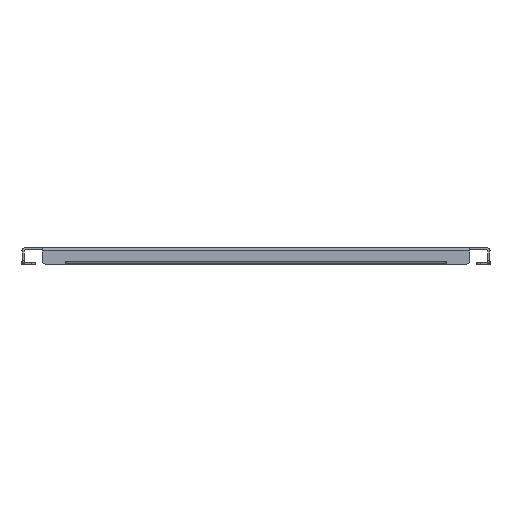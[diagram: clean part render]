
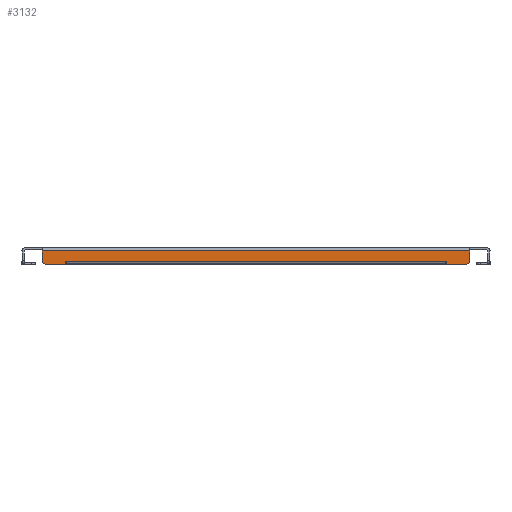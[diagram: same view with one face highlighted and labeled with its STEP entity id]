
A CAD part, front view. The second image highlights one B-rep face of the part: STEP entity #3132.
In plain terms, the highlighted planar face has unit normal (0, -1, 0).
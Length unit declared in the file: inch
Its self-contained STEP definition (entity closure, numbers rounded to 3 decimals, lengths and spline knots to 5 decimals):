
#82=PLANE('',#3407);
#200=FACE_OUTER_BOUND('',#390,.T.);
#390=EDGE_LOOP('',(#2467,#2468,#2469,#2470,#2471,#2472,#2473,#2474,#2475,
#2476,#2477,#2478,#2479,#2480));
#606=LINE('',#4836,#938);
#626=LINE('',#4904,#958);
#644=LINE('',#4965,#976);
#647=LINE('',#4970,#979);
#648=LINE('',#4974,#980);
#649=LINE('',#4976,#981);
#650=LINE('',#4978,#982);
#651=LINE('',#4980,#983);
#652=LINE('',#4982,#984);
#653=LINE('',#4984,#985);
#654=LINE('',#4986,#986);
#655=LINE('',#4987,#987);
#938=VECTOR('',#3897,0.3937);
#958=VECTOR('',#3951,0.3937);
#976=VECTOR('',#4001,0.3937);
#979=VECTOR('',#4006,0.3937);
#980=VECTOR('',#4009,0.3937);
#981=VECTOR('',#4010,0.3937);
#982=VECTOR('',#4011,0.3937);
#983=VECTOR('',#4012,0.3937);
#984=VECTOR('',#4013,0.3937);
#985=VECTOR('',#4014,0.3937);
#986=VECTOR('',#4015,0.3937);
#987=VECTOR('',#4016,0.3937);
#1233=CIRCLE('',#3405,0.125);
#1234=CIRCLE('',#3408,0.125);
#1409=VERTEX_POINT('',#4833);
#1410=VERTEX_POINT('',#4835);
#1440=VERTEX_POINT('',#4901);
#1441=VERTEX_POINT('',#4903);
#1467=VERTEX_POINT('',#4960);
#1468=VERTEX_POINT('',#4964);
#1470=VERTEX_POINT('',#4971);
#1471=VERTEX_POINT('',#4973);
#1472=VERTEX_POINT('',#4975);
#1473=VERTEX_POINT('',#4977);
#1474=VERTEX_POINT('',#4979);
#1475=VERTEX_POINT('',#4981);
#1476=VERTEX_POINT('',#4983);
#1477=VERTEX_POINT('',#4985);
#1772=EDGE_CURVE('',#1410,#1409,#606,.T.);
#1806=EDGE_CURVE('',#1441,#1440,#626,.T.);
#1835=EDGE_CURVE('',#1441,#1467,#1233,.T.);
#1837=EDGE_CURVE('',#1468,#1467,#644,.T.);
#1840=EDGE_CURVE('',#1410,#1440,#647,.T.);
#1841=EDGE_CURVE('',#1470,#1409,#1234,.T.);
#1842=EDGE_CURVE('',#1470,#1471,#648,.T.);
#1843=EDGE_CURVE('',#1471,#1472,#649,.T.);
#1844=EDGE_CURVE('',#1472,#1473,#650,.T.);
#1845=EDGE_CURVE('',#1473,#1474,#651,.T.);
#1846=EDGE_CURVE('',#1474,#1475,#652,.T.);
#1847=EDGE_CURVE('',#1475,#1476,#653,.T.);
#1848=EDGE_CURVE('',#1476,#1477,#654,.T.);
#1849=EDGE_CURVE('',#1477,#1468,#655,.T.);
#2467=ORIENTED_EDGE('',*,*,#1835,.F.);
#2468=ORIENTED_EDGE('',*,*,#1806,.T.);
#2469=ORIENTED_EDGE('',*,*,#1840,.F.);
#2470=ORIENTED_EDGE('',*,*,#1772,.T.);
#2471=ORIENTED_EDGE('',*,*,#1841,.F.);
#2472=ORIENTED_EDGE('',*,*,#1842,.T.);
#2473=ORIENTED_EDGE('',*,*,#1843,.T.);
#2474=ORIENTED_EDGE('',*,*,#1844,.T.);
#2475=ORIENTED_EDGE('',*,*,#1845,.T.);
#2476=ORIENTED_EDGE('',*,*,#1846,.T.);
#2477=ORIENTED_EDGE('',*,*,#1847,.T.);
#2478=ORIENTED_EDGE('',*,*,#1848,.T.);
#2479=ORIENTED_EDGE('',*,*,#1849,.T.);
#2480=ORIENTED_EDGE('',*,*,#1837,.T.);
#3132=ADVANCED_FACE('',(#200),#82,.F.);
#3405=AXIS2_PLACEMENT_3D('',#4961,#3996,#3997);
#3407=AXIS2_PLACEMENT_3D('',#4969,#4004,#4005);
#3408=AXIS2_PLACEMENT_3D('',#4972,#4007,#4008);
#3897=DIRECTION('',(0.,0.,-1.));
#3951=DIRECTION('',(0.,0.,1.));
#3996=DIRECTION('center_axis',(0.,1.,0.));
#3997=DIRECTION('ref_axis',(0.707,0.,-0.707));
#4001=DIRECTION('',(1.,0.,0.));
#4004=DIRECTION('center_axis',(0.,1.,0.));
#4005=DIRECTION('ref_axis',(0.,0.,1.));
#4006=DIRECTION('',(1.,0.,0.));
#4007=DIRECTION('center_axis',(0.,1.,0.));
#4008=DIRECTION('ref_axis',(-0.707,0.,-0.707));
#4009=DIRECTION('',(1.,0.,0.));
#4010=DIRECTION('',(0.,0.,1.));
#4011=DIRECTION('',(1.,0.,0.));
#4012=DIRECTION('',(0.,0.,-1.));
#4013=DIRECTION('',(1.,0.,0.));
#4014=DIRECTION('',(0.,0.,1.));
#4015=DIRECTION('',(1.,0.,0.));
#4016=DIRECTION('',(0.,0.,-1.));
#4833=CARTESIAN_POINT('',(-6.6875,-10.,-0.319));
#4835=CARTESIAN_POINT('',(-6.6875,-10.,-0.031));
#4836=CARTESIAN_POINT('',(-6.6875,-10.,0.068));
#4901=CARTESIAN_POINT('',(6.6875,-10.,-0.031));
#4903=CARTESIAN_POINT('',(6.6875,-10.,-0.319));
#4904=CARTESIAN_POINT('',(6.6875,-10.,-0.444));
#4960=CARTESIAN_POINT('',(6.5625,-10.,-0.444));
#4961=CARTESIAN_POINT('Origin',(6.5625,-10.,-0.319));
#4964=CARTESIAN_POINT('',(5.9377,-10.,-0.444));
#4965=CARTESIAN_POINT('',(-6.6875,-10.,-0.444));
#4969=CARTESIAN_POINT('Origin',(0.,-10.,-0.188));
#4970=CARTESIAN_POINT('',(6.6875,-10.,-0.031));
#4971=CARTESIAN_POINT('',(-6.5625,-10.,-0.444));
#4972=CARTESIAN_POINT('Origin',(-6.5625,-10.,-0.319));
#4973=CARTESIAN_POINT('',(-5.9377,-10.,-0.444));
#4974=CARTESIAN_POINT('',(-6.6875,-10.,-0.444));
#4975=CARTESIAN_POINT('',(-5.9377,-10.,-0.3448));
#4976=CARTESIAN_POINT('',(-5.9377,-10.,-0.316));
#4977=CARTESIAN_POINT('',(-5.9375,-10.,-0.3448));
#4978=CARTESIAN_POINT('',(-2.96885,-10.,-0.3448));
#4979=CARTESIAN_POINT('',(-5.9375,-10.,-0.345));
#4980=CARTESIAN_POINT('',(-5.9375,-10.,-0.2664));
#4981=CARTESIAN_POINT('',(5.9375,-10.,-0.345));
#4982=CARTESIAN_POINT('',(2.96875,-10.,-0.345));
#4983=CARTESIAN_POINT('',(5.9375,-10.,-0.3448));
#4984=CARTESIAN_POINT('',(5.9375,-10.,-0.316));
#4985=CARTESIAN_POINT('',(5.9377,-10.,-0.3448));
#4986=CARTESIAN_POINT('',(2.96875,-10.,-0.3448));
#4987=CARTESIAN_POINT('',(5.9377,-10.,-0.2664));
